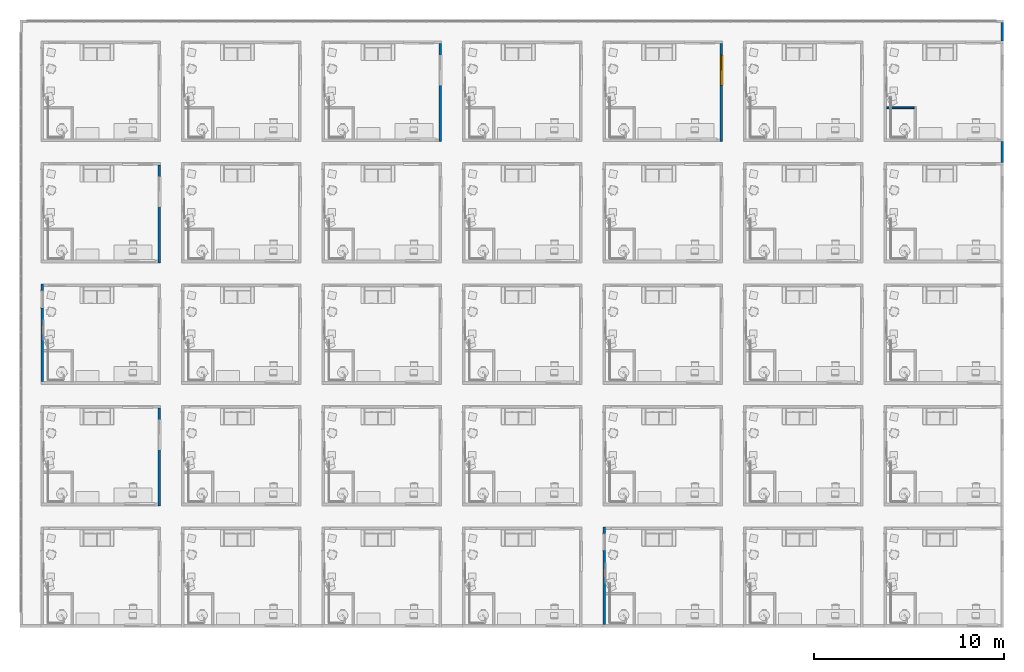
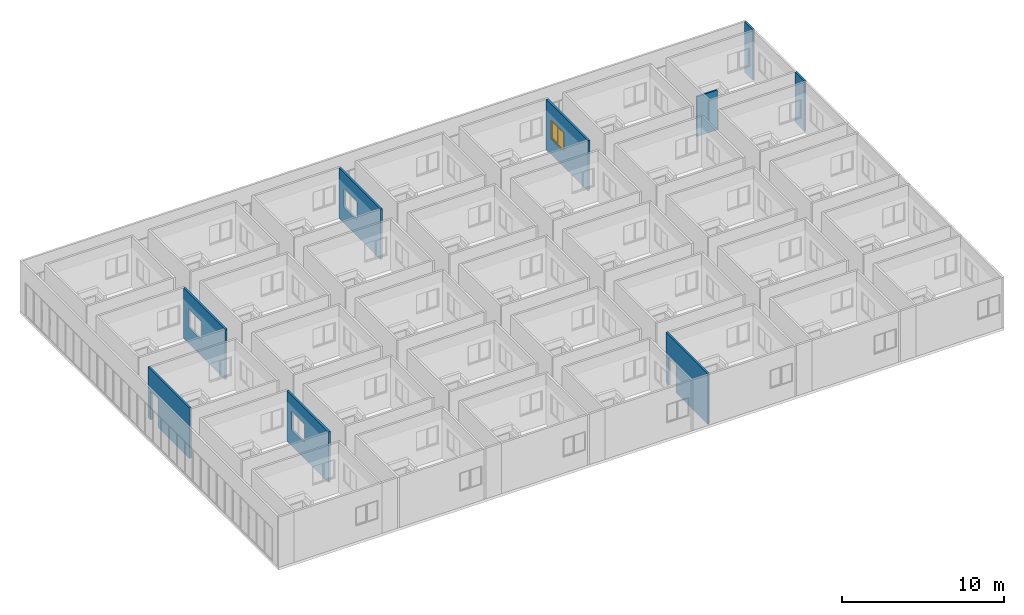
# One storey, part 10 of 72: 9 walls, 1 window, 6 openings.
"""IFC4 building model written with IfcOpenShell, lengths in centimetres."""

from ifc_helpers import new_model, entity, si_unit, converted_unit, derived_unit, direction, frame, origin, place, context, subcontext, project, spatial, indexed_curve, outline, extrude, polygons, source, transform, mapped, material, constituent, constituent_set, type_object, type_shapes, element, fill, save


model = new_model("IFC4")

# Units and contexts
model_context = context("Model", 3, precision=0.001, world=origin(), true_north=direction((6.123233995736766e-17, 1.0)))
body_context = subcontext(model_context, "Body", "Model", "MODEL_VIEW")
ifc_project = project(units=[si_unit("LENGTHUNIT", "METRE", prefix="CENTI"), si_unit("AREAUNIT", "SQUARE_METRE"), si_unit("VOLUMEUNIT", "CUBIC_METRE"), derived_unit("THERMALTRANSMITTANCEUNIT", [(si_unit("MASSUNIT", "GRAM", prefix="KILO"), 1), (si_unit("THERMODYNAMICTEMPERATUREUNIT", "KELVIN"), -1), (si_unit("TIMEUNIT", "SECOND"), -3)]), converted_unit("PLANEANGLEUNIT", "DEGREE", entity("IfcPlaneAngleMeasure", 0.017453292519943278), si_unit("PLANEANGLEUNIT", "RADIAN"), dimensions=[0, 0, 0, 0, 0, 0, 0]), derived_unit("MASSDENSITYUNIT", [(si_unit("MASSUNIT", "GRAM", prefix="KILO"), 1), (si_unit("LENGTHUNIT", "METRE"), -3)]), derived_unit("VAPORPERMEABILITYUNIT", [(si_unit("LENGTHUNIT", "METRE"), -1), (si_unit("TIMEUNIT", "SECOND"), 1)]), derived_unit("USERDEFINED", [(si_unit("MASSUNIT", "GRAM", prefix="KILO"), 1), (si_unit("TIMEUNIT", "SECOND"), -3), (si_unit("LENGTHUNIT", "METRE"), 3), (si_unit("ELECTRICCURRENTUNIT", "AMPERE"), -2)]), derived_unit("SPECIFICHEATCAPACITYUNIT", [(si_unit("THERMODYNAMICTEMPERATUREUNIT", "KELVIN"), -1), (si_unit("LENGTHUNIT", "METRE"), 2), (si_unit("TIMEUNIT", "SECOND"), -2)]), derived_unit("THERMALCONDUCTANCEUNIT", [(si_unit("MASSUNIT", "GRAM", prefix="KILO"), 1), (si_unit("THERMODYNAMICTEMPERATUREUNIT", "KELVIN"), -1), (si_unit("TIMEUNIT", "SECOND"), -3), (si_unit("LENGTHUNIT", "METRE"), 1)]), si_unit("PRESSUREUNIT", "PASCAL"), derived_unit("MODULUSOFELASTICITYUNIT", [(si_unit("MASSUNIT", "GRAM", prefix="KILO"), 1), (si_unit("LENGTHUNIT", "METRE"), -1), (si_unit("TIMEUNIT", "SECOND"), -2)]), derived_unit("THERMALEXPANSIONCOEFFICIENTUNIT", [(si_unit("THERMODYNAMICTEMPERATUREUNIT", "KELVIN"), -1)])], contexts=[model_context])

# Site, building, storey
site_placement = place(None, origin())
site = spatial("IfcSite", under=ifc_project, at=site_placement, Name="Default", CompositionType="ELEMENT")
building_placement = place(site_placement, origin())
building = spatial("IfcBuilding", under=site, at=building_placement, Name="IDS Escape Game Building", CompositionType="ELEMENT")
storey_placement = place(building_placement, frame((0.0, 0.0, 800.0)))
storey = spatial("IfcBuildingStorey", under=building, at=storey_placement, Name="02_Second Floor", CompositionType="ELEMENT", Elevation=800.0)

# Wall, opening
ifc_material_1 = material(Name="ARC_FME.g2_Fg2 Masonry_00_gen_BERSnl", Category="g - klei")
wall_type_1 = type_object("IfcWallType", Name="Basic Wall:ARC_22.10_WA_LB_SB14_gen_BERSnl", PredefinedType="STANDARD")
wall_1_placement = place(storey_placement, frame((2952.0, 527.0, 0.0), z_axis=(0.0, 0.0, 1.0), x_axis=(0.0, -1.0, 0.0)))
wall_1 = element("IfcWall", 1, at=wall_1_placement, inside=storey, type_object=wall_type_1, material=ifc_material_1, Name="Basic Wall:ARC_22.10_WA_LB_SB14_gen_BERSnl", ObjectType="Basic Wall:ARC_22.10_WA_LB_SB14_gen_BERSnl", PredefinedType="NOTDEFINED", context=body_context, shape_type="Tessellation", body=[
    polygons([(513.9999999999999, -6.999999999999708, 379.9999999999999), (0.0, -6.999999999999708, 379.9999999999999), (0.0, -6.999999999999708, -1.0828671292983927e-13), (35.999999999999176, -6.999999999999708, -1.0828671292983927e-13), (35.999999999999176, -6.999999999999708, 215.00000000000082), (125.99999999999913, -6.999999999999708, 215.00000000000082), (125.99999999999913, -6.999999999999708, -1.0828671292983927e-13), (513.9999999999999, -6.999999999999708, -1.0828671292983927e-13), (0.0, 7.000000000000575, 379.9999999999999), (13.999999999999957, 7.000000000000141, 379.9999999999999), (513.9999999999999, 7.000000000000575, 379.9999999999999), (513.9999999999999, 7.000000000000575, -1.0828671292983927e-13), (355.999999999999, 7.000000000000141, -1.0828671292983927e-13), (345.999999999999, 7.000000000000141, -1.0828671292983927e-13), (125.99999999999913, 7.000000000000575, -1.0828671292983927e-13), (125.99999999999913, 7.000000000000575, 215.00000000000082), (35.999999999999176, 7.000000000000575, 215.00000000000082), (35.999999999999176, 7.000000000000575, -1.0828671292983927e-13), (13.999999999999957, 7.000000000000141, -1.0828671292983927e-13), (0.0, 7.000000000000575, -1.0828671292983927e-13)], [[[1, 2, 3, 4, 5, 6, 7, 8]], [[9, 10, 11, 12, 13, 14, 15, 16, 17, 18, 19, 20]], [[3, 20, 19, 18, 4]], [[2, 1, 11, 10, 9]], [[17, 5, 4, 18]], [[6, 16, 15, 7]], [[5, 17, 16, 6]], [[3, 2, 9, 20]], [[1, 8, 12, 11]], [[12, 8, 7, 15, 14, 13]]], closed=True),
])
opening_1_placement = place(wall_1_placement, frame((527.0, -2952.0, 0.0), z_axis=(0.0, 0.0, 1.0), x_axis=(0.0, 1.0, 0.0)))
element("IfcOpeningElement", 2, at=opening_1_placement, cuts=wall_1, Name="Basic Wall:ARC_22.10_WA_LB_SB14_gen_BERSnl", PredefinedType="OPENING", context=body_context, shape_type="SweptSolid", body=[
    extrude(outline(indexed_curve([(-137.49999999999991, -45.0), (137.49999999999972, -45.0), (137.49999999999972, 44.99999999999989), (-137.49999999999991, 44.99999999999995), (-137.49999999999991, -45.0)], self_intersect=False)), frame((2862.0, 446.0, 77.50000000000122), z_axis=(1.0, 0.0, 0.0), x_axis=(0.0, 0.0, 1.0)), (0.0, 0.0, 1.0), 166.00000000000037),
])

wall_2_placement = place(storey_placement, frame((614.0, 637.0, 0.0), z_axis=(0.0, 0.0, 1.0), x_axis=(0.0, 1.0, 0.0)))
wall_2 = element("IfcWall", 3, at=wall_2_placement, inside=storey, type_object=wall_type_1, material=ifc_material_1, Name="Basic Wall:ARC_22.10_WA_LB_SB14_gen_BERSnl", ObjectType="Basic Wall:ARC_22.10_WA_LB_SB14_gen_BERSnl", PredefinedType="NOTDEFINED", context=body_context, shape_type="Tessellation", body=[
    polygons([(0.0, -6.9999999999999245, -1.0828671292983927e-13), (514.0, -6.9999999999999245, -1.0828671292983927e-13), (514.0, -6.9999999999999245, 379.9999999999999), (0.0, -6.9999999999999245, 379.9999999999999), (454.0, -6.999999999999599, 260.00000000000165), (454.00000000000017, -6.999999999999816, 119.9999999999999), (294.0000000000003, -6.9999999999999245, 119.9999999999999), (294.0000000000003, -6.999999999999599, 260.00000000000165), (454.00000000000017, 7.000000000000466, 119.9999999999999), (454.00000000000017, 7.000000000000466, 260.0000000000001), (294.0000000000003, 7.000000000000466, 260.0000000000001), (294.0000000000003, 7.000000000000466, 119.9999999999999), (0.0, 7.000000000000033, -1.0828671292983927e-13), (0.0, 7.000000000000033, 379.9999999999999), (13.999999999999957, 7.000000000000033, 379.9999999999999), (514.0, 7.000000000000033, 379.9999999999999), (514.0, 7.000000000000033, -1.0828671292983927e-13), (13.999999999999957, 7.000000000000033, -1.0828671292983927e-13)], [[[1, 2, 3, 4], [5, 6, 7, 8]], [[13, 14, 15, 16, 17, 18], [9, 10, 11, 12]], [[2, 1, 13, 18, 17]], [[4, 3, 16, 15, 14]], [[10, 9, 6, 5]], [[7, 12, 11, 8]], [[10, 5, 8, 11]], [[12, 7, 6, 9]], [[1, 4, 14, 13]], [[3, 2, 17, 16]]], closed=True),
])
opening_2_placement = place(wall_2_placement, frame((-637.0, 614.0, 120.0), z_axis=(0.0, 0.0, 1.0), x_axis=(0.0, -1.0, 0.0)))
element("IfcOpeningElement", 4, at=opening_2_placement, cuts=wall_2, Name="Basic Wall:ARC_22.10_WA_LB_SB14_gen_BERSnl", PredefinedType="OPENING", context=body_context, shape_type="Tessellation", body=[
    polygons([(607.0000000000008, 1091.0, 0.0), (607.0000000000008, 1091.0, -0.9999999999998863), (602.0000000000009, 1091.0, -0.9999999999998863), (602.0000000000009, 1091.0, 0.0), (607.0000000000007, 931.0, 0.0), (602.0000000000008, 931.0, 0.0), (602.0000000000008, 931.0, -0.9999999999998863), (607.0000000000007, 931.0, -0.9999999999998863), (607.0000000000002, 1086.0, 1.1368683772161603e-13), (607.0000000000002, 936.0, 1.1368683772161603e-13), (602.0000000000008, 936.0, 0.0), (601.999999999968, 936.0, 134.99999999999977), (601.9999999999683, 1086.0, 134.99999999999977), (602.0000000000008, 1086.0, 0.0), (626.0368251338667, 1090.9999999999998, 0.0), (606.9999999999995, 1091.0, 1.1368683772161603e-13), (606.9999999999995, 1091.0, 140.0000000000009), (626.0368251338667, 1091.0, 140.00000000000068), (626.0368251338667, 931.0, 140.00000000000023), (606.9999999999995, 931.0, 140.00000000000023), (606.9999999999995, 931.0, 0.0), (626.0368251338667, 931.0, 1.1368683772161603e-13), (606.9999999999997, 1086.0, 134.99999999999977), (606.9999999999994, 936.0, 134.99999999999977)], [[[1, 2, 3, 4]], [[5, 6, 7, 8]], [[1, 9, 10, 5, 8, 2]], [[2, 8, 7, 3]], [[3, 7, 6, 11, 12, 13, 14, 4]], [[4, 14, 9, 1]], [[15, 16, 17, 18]], [[19, 20, 21, 22]], [[18, 17, 20, 19]], [[18, 19, 22, 15]], [[17, 16, 9, 23, 24, 10, 21, 20]], [[22, 21, 10, 9, 16, 15]], [[11, 10, 24, 12]], [[13, 23, 9, 14]], [[12, 24, 23, 13]], [[5, 10, 11, 6]]], closed=True),
])

wall_3_placement = place(storey_placement, frame((0.0, 1803.0, 0.0), z_axis=(0.0, 0.0, 1.0), x_axis=(0.0, -1.0, 0.0)))
wall_3 = element("IfcWall", 5, at=wall_3_placement, inside=storey, type_object=wall_type_1, material=ifc_material_1, Name="Basic Wall:ARC_22.10_WA_LB_SB14_gen_BERSnl", ObjectType="Basic Wall:ARC_22.10_WA_LB_SB14_gen_BERSnl", PredefinedType="NOTDEFINED", context=body_context, shape_type="Tessellation", body=[
    polygons([(514.0000000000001, -7.0, 379.9999999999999), (0.0, -7.0, 379.9999999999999), (0.0, -7.0, -1.0828671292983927e-13), (35.999999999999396, -7.0, -1.0828671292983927e-13), (35.999999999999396, -7.000000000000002, 215.00000000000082), (125.99999999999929, -7.000000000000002, 215.00000000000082), (125.99999999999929, -7.0, -1.0828671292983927e-13), (514.0000000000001, -7.0, -1.0828671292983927e-13), (0.0, 7.0, 379.9999999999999), (14.000000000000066, 7.0, 379.9999999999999), (514.0000000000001, 7.0, 379.9999999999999), (514.0000000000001, 7.0, -1.0828671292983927e-13), (355.999999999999, 7.0, -1.0828671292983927e-13), (345.99999999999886, 7.0, -1.0828671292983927e-13), (125.99999999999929, 7.0, -1.0828671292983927e-13), (125.99999999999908, 6.9999999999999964, 215.00000000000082), (35.99999999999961, 7.000000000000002, 215.00000000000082), (35.999999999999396, 7.0, -1.0828671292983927e-13), (14.000000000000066, 7.0, -1.0828671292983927e-13), (0.0, 7.0, -1.0828671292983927e-13)], [[[1, 2, 3, 4, 5, 6, 7, 8]], [[9, 10, 11, 12, 13, 14, 15, 16, 17, 18, 19, 20]], [[3, 20, 19, 18, 4]], [[2, 1, 11, 10, 9]], [[17, 5, 4, 18]], [[6, 16, 15, 7]], [[5, 17, 16, 6]], [[3, 2, 9, 20]], [[1, 8, 12, 11]], [[12, 8, 7, 15, 14, 13]]], closed=True),
])
opening_3_placement = place(wall_3_placement, frame((1803.0, 0.0, 0.0), z_axis=(0.0, 0.0, 1.0), x_axis=(0.0, 1.0, 0.0)))
element("IfcOpeningElement", 6, at=opening_3_placement, cuts=wall_3, Name="Basic Wall:ARC_22.10_WA_LB_SB14_gen_BERSnl", PredefinedType="OPENING", context=body_context, shape_type="SweptSolid", body=[
    extrude(outline(indexed_curve([(-137.49999999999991, -44.99999999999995), (137.49999999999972, -44.99999999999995), (137.49999999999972, 44.99999999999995), (-137.49999999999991, 44.99999999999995), (-137.49999999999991, -44.99999999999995)], self_intersect=False)), frame((-90.0, 1722.0, 77.50000000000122), z_axis=(1.0, 0.0, 0.0), x_axis=(0.0, 0.0, 1.0)), (0.0, 0.0, 1.0), 166.0),
])

wall_4_placement = place(storey_placement, frame((614.0, 1913.0, 0.0), z_axis=(0.0, 0.0, 1.0), x_axis=(0.0, 1.0, 0.0)))
wall_4 = element("IfcWall", 7, at=wall_4_placement, inside=storey, type_object=wall_type_1, material=ifc_material_1, Name="Basic Wall:ARC_22.10_WA_LB_SB14_gen_BERSnl", ObjectType="Basic Wall:ARC_22.10_WA_LB_SB14_gen_BERSnl", PredefinedType="NOTDEFINED", context=body_context, shape_type="Tessellation", body=[
    polygons([(0.0, -6.9999999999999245, -1.0828671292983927e-13), (513.9999999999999, -6.9999999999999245, -1.0828671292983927e-13), (513.9999999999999, -6.9999999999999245, 379.9999999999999), (0.0, -6.9999999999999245, 379.9999999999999), (454.00000000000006, -6.999999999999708, 260.00000000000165), (454.0000000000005, -6.9999999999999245, 119.9999999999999), (294.0000000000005, -7.000000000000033, 119.9999999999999), (294.0000000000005, -6.999999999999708, 260.00000000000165), (454.0000000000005, 7.000000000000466, 119.9999999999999), (454.0000000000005, 7.000000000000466, 260.0000000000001), (294.0000000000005, 7.000000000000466, 260.0000000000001), (294.0000000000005, 7.000000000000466, 119.9999999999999), (0.0, 7.000000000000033, -1.0828671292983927e-13), (0.0, 7.000000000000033, 379.9999999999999), (14.000000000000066, 7.000000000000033, 379.9999999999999), (513.9999999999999, 7.000000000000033, 379.9999999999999), (513.9999999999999, 7.000000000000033, -1.0828671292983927e-13), (14.000000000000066, 7.000000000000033, -1.0828671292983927e-13)], [[[1, 2, 3, 4], [5, 6, 7, 8]], [[13, 14, 15, 16, 17, 18], [9, 10, 11, 12]], [[2, 1, 13, 18, 17]], [[4, 3, 16, 15, 14]], [[10, 9, 6, 5]], [[7, 12, 11, 8]], [[10, 5, 8, 11]], [[12, 7, 6, 9]], [[1, 4, 14, 13]], [[3, 2, 17, 16]]], closed=True),
])
opening_4_placement = place(wall_4_placement, frame((-1913.0, 614.0, 120.0), z_axis=(0.0, 0.0, 1.0), x_axis=(0.0, -1.0, 0.0)))
element("IfcOpeningElement", 8, at=opening_4_placement, cuts=wall_4, Name="Basic Wall:ARC_22.10_WA_LB_SB14_gen_BERSnl", PredefinedType="OPENING", context=body_context, shape_type="Tessellation", body=[
    polygons([(607.0, 2367.0000000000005, 0.0), (607.0, 2367.0000000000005, -0.9999999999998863), (602.0, 2367.0000000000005, -0.9999999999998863), (602.0, 2367.0000000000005, 0.0), (606.9999999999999, 2207.0000000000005, 0.0), (601.9999999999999, 2207.0000000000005, 0.0), (601.9999999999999, 2207.0000000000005, -0.9999999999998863), (606.9999999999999, 2207.0000000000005, -0.9999999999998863), (606.9999999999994, 2362.0000000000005, 1.1368683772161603e-13), (606.9999999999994, 2212.0000000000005, 1.1368683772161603e-13), (601.9999999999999, 2212.0000000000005, 0.0), (601.9999999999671, 2212.0, 134.99999999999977), (601.9999999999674, 2362.0000000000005, 134.99999999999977), (601.9999999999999, 2362.0000000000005, 0.0), (626.0368251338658, 2367.0000000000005, 0.0), (606.9999999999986, 2367.0000000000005, 1.1368683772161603e-13), (606.9999999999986, 2367.0000000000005, 140.0000000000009), (626.0368251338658, 2367.0000000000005, 140.00000000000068), (626.0368251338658, 2207.0000000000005, 140.00000000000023), (606.9999999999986, 2207.0000000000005, 140.00000000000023), (606.9999999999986, 2207.0000000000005, 0.0), (626.0368251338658, 2207.0000000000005, 1.1368683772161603e-13), (606.9999999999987, 2362.0000000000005, 134.99999999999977), (606.9999999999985, 2212.0, 134.99999999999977)], [[[1, 2, 3, 4]], [[5, 6, 7, 8]], [[1, 9, 10, 5, 8, 2]], [[2, 8, 7, 3]], [[3, 7, 6, 11, 12, 13, 14, 4]], [[4, 14, 9, 1]], [[15, 16, 17, 18]], [[19, 20, 21, 22]], [[18, 17, 20, 19]], [[18, 19, 22, 15]], [[17, 16, 9, 23, 24, 10, 21, 20]], [[22, 21, 10, 9, 16, 15]], [[11, 10, 24, 12]], [[13, 23, 9, 14]], [[12, 24, 23, 13]], [[5, 10, 11, 6]]], closed=True),
])

wall_5_placement = place(storey_placement, frame((2090.0, 2551.0, 0.0), z_axis=(0.0, 0.0, 1.0), x_axis=(0.0, 1.0, 0.0)))
wall_5 = element("IfcWall", 9, at=wall_5_placement, inside=storey, type_object=wall_type_1, material=ifc_material_1, Name="Basic Wall:ARC_22.10_WA_LB_SB14_gen_BERSnl", ObjectType="Basic Wall:ARC_22.10_WA_LB_SB14_gen_BERSnl", PredefinedType="NOTDEFINED", context=body_context, shape_type="Tessellation", body=[
    polygons([(0.0, -6.999999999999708, -1.0828671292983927e-13), (513.9999999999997, -6.999999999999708, -1.0828671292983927e-13), (513.9999999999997, -6.999999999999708, 379.9999999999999), (0.0, -6.999999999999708, 379.9999999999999), (454.00000000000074, -6.999999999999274, 260.00000000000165), (454.00000000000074, -6.999999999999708, 119.9999999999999), (294.00000000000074, -6.999999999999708, 119.9999999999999), (294.00000000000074, -6.999999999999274, 260.00000000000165), (454.00000000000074, 7.000000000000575, 119.9999999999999), (454.00000000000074, 7.000000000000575, 260.0000000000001), (294.00000000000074, 7.000000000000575, 260.0000000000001), (294.00000000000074, 7.000000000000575, 119.9999999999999), (0.0, 7.000000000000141, -1.0828671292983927e-13), (0.0, 7.000000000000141, 379.9999999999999), (13.999999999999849, 7.000000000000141, 379.9999999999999), (513.9999999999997, 7.000000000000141, 379.9999999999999), (513.9999999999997, 7.000000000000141, -1.0828671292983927e-13), (13.999999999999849, 7.000000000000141, -1.0828671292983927e-13)], [[[1, 2, 3, 4], [5, 6, 7, 8]], [[13, 14, 15, 16, 17, 18], [9, 10, 11, 12]], [[2, 1, 13, 18, 17]], [[4, 3, 16, 15, 14]], [[10, 9, 6, 5]], [[7, 12, 11, 8]], [[10, 5, 8, 11]], [[12, 7, 6, 9]], [[1, 4, 14, 13]], [[3, 2, 17, 16]]], closed=True),
])
opening_5_placement = place(wall_5_placement, frame((-2551.0, 2090.0, 120.0), z_axis=(0.0, 0.0, 1.0), x_axis=(0.0, -1.0, 0.0)))
element("IfcOpeningElement", 10, at=opening_5_placement, cuts=wall_5, Name="Basic Wall:ARC_22.10_WA_LB_SB14_gen_BERSnl", PredefinedType="OPENING", context=body_context, shape_type="Tessellation", body=[
    polygons([(2082.9999999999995, 3005.000000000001, 0.0), (2082.9999999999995, 3005.000000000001, -0.9999999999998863), (2077.999999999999, 3005.000000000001, -0.9999999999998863), (2077.999999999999, 3005.000000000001, 0.0), (2082.9999999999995, 2845.000000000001, 0.0), (2077.999999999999, 2845.000000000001, 0.0), (2077.999999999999, 2845.000000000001, -0.9999999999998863), (2082.9999999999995, 2845.000000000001, -0.9999999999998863), (2082.999999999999, 3000.000000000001, 1.1368683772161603e-13), (2082.999999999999, 2850.000000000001, 1.1368683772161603e-13), (2077.9999999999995, 2850.0000000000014, 0.0), (2077.9999999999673, 2850.0000000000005, 134.99999999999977), (2077.9999999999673, 3000.0000000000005, 134.99999999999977), (2077.9999999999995, 3000.000000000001, 0.0), (2102.0368251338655, 3005.000000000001, 0.0), (2082.999999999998, 3005.000000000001, 1.1368683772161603e-13), (2082.9999999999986, 3005.000000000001, 140.0000000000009), (2102.036825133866, 3005.000000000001, 140.00000000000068), (2102.0368251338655, 2845.000000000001, 140.00000000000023), (2082.999999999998, 2845.000000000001, 140.00000000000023), (2082.9999999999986, 2845.000000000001, 0.0), (2102.0368251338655, 2845.000000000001, 1.1368683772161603e-13), (2082.9999999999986, 3000.0000000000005, 134.99999999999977), (2082.999999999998, 2850.0000000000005, 134.99999999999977)], [[[1, 2, 3, 4]], [[5, 6, 7, 8]], [[1, 9, 10, 5, 8, 2]], [[2, 8, 7, 3]], [[3, 7, 6, 11, 12, 13, 14, 4]], [[4, 14, 9, 1]], [[15, 16, 17, 18]], [[19, 20, 21, 22]], [[18, 17, 20, 19]], [[18, 19, 22, 15]], [[17, 16, 9, 23, 24, 10, 21, 20]], [[22, 21, 10, 9, 16, 15]], [[11, 10, 24, 12]], [[13, 23, 9, 14]], [[12, 24, 23, 13]], [[5, 10, 11, 6]]], closed=True),
])

# Wall, opening, window
wall_6_placement = place(storey_placement, frame((3566.0, 2551.0, 0.0), z_axis=(0.0, 0.0, 1.0), x_axis=(0.0, 1.0, 0.0)))
wall_6 = element("IfcWall", 11, at=wall_6_placement, inside=storey, type_object=wall_type_1, material=ifc_material_1, Name="Basic Wall:ARC_22.10_WA_LB_SB14_gen_BERSnl", ObjectType="Basic Wall:ARC_22.10_WA_LB_SB14_gen_BERSnl", PredefinedType="NOTDEFINED", context=body_context, shape_type="Tessellation", body=[
    polygons([(0.0, -6.999999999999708, -1.0828671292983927e-13), (513.9999999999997, -6.999999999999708, -1.0828671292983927e-13), (513.9999999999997, -6.999999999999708, 379.9999999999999), (0.0, -6.999999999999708, 379.9999999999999), (454.00000000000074, -6.999999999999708, 260.00000000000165), (454.00000000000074, -6.999999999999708, 119.9999999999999), (294.00000000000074, -6.999999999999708, 119.9999999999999), (294.00000000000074, -6.999999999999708, 260.00000000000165), (454.00000000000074, 7.000000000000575, 119.9999999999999), (454.00000000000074, 7.000000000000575, 260.0000000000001), (294.00000000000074, 7.000000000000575, 260.0000000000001), (294.00000000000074, 7.000000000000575, 119.9999999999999), (0.0, 7.000000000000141, -1.0828671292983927e-13), (0.0, 7.000000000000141, 379.9999999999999), (13.999999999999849, 7.000000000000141, 379.9999999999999), (513.9999999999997, 7.000000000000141, 379.9999999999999), (513.9999999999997, 7.000000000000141, -1.0828671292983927e-13), (13.999999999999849, 7.000000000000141, -1.0828671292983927e-13)], [[[1, 2, 3, 4], [5, 6, 7, 8]], [[13, 14, 15, 16, 17, 18], [9, 10, 11, 12]], [[2, 1, 13, 18, 17]], [[4, 3, 16, 15, 14]], [[10, 9, 6, 5]], [[7, 12, 11, 8]], [[10, 5, 8, 11]], [[12, 7, 6, 9]], [[1, 4, 14, 13]], [[3, 2, 17, 16]]], closed=True),
])
opening_6_placement = place(wall_6_placement, frame((-2551.0, 3566.0, 120.0), z_axis=(0.0, 0.0, 1.0), x_axis=(0.0, -1.0, 0.0)))
opening_6 = element("IfcOpeningElement", 12, at=opening_6_placement, cuts=wall_6, Name="Basic Wall:ARC_22.10_WA_LB_SB14_gen_BERSnl", PredefinedType="OPENING", context=body_context, shape_type="Tessellation", body=[
    polygons([(3558.9999999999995, 3005.000000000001, 0.0), (3558.9999999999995, 3005.000000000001, -0.9999999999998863), (3553.9999999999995, 3005.000000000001, -0.9999999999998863), (3553.9999999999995, 3005.000000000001, 0.0), (3558.9999999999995, 2845.000000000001, 0.0), (3553.9999999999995, 2845.000000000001, 0.0), (3553.9999999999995, 2845.000000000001, -0.9999999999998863), (3558.9999999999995, 2845.000000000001, -0.9999999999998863), (3558.9999999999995, 3000.000000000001, 1.1368683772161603e-13), (3558.999999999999, 2850.000000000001, 1.1368683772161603e-13), (3554.0, 2850.0000000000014, 0.0), (3553.999999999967, 2850.0000000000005, 134.99999999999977), (3553.999999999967, 3000.0000000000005, 134.99999999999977), (3554.0, 3000.000000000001, 0.0), (3578.0368251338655, 3005.000000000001, 0.0), (3558.999999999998, 3005.000000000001, 1.1368683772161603e-13), (3558.9999999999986, 3005.000000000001, 140.0000000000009), (3578.0368251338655, 3005.000000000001, 140.00000000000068), (3578.0368251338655, 2845.000000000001, 140.00000000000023), (3558.999999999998, 2845.000000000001, 140.00000000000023), (3558.999999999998, 2845.000000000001, 0.0), (3578.0368251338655, 2845.000000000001, 1.1368683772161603e-13), (3558.9999999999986, 3000.0000000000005, 134.99999999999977), (3558.999999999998, 2850.0000000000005, 134.99999999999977)], [[[1, 2, 3, 4]], [[5, 6, 7, 8]], [[1, 9, 10, 5, 8, 2]], [[2, 8, 7, 3]], [[3, 7, 6, 11, 12, 13, 14, 4]], [[4, 14, 9, 1]], [[15, 16, 17, 18]], [[19, 20, 21, 22]], [[18, 17, 20, 19]], [[18, 19, 22, 15]], [[17, 16, 9, 23, 24, 10, 21, 20]], [[22, 21, 10, 9, 16, 15]], [[11, 10, 24, 12]], [[13, 23, 9, 14]], [[12, 24, 23, 13]], [[5, 10, 11, 6]]], closed=True),
])
ifc_material_2 = material(Name="<Unnamed>")
ifc_constituent_1 = constituent(ifc_material_2, Name="<Unnamed>", fraction=0.0)
ifc_material_3 = material(Name="ARC_FME.o1_glass_00_gen_BERSnl", Category="o - glas")
ifc_constituent_2 = constituent(ifc_material_3, Name="ARC_FME.o1_glass_00_gen_BERSnl", Category="o - glas", fraction=1.0)
ifc_constituent_set_1 = constituent_set(constituents=[ifc_constituent_1, ifc_constituent_2])
ifc_constituent_3 = constituent(ifc_material_2, Name="BE Tablet", fraction=0.0)
ifc_constituent_4 = constituent(ifc_material_2, Name="Frame/Mullion", fraction=0.0)
ifc_constituent_5 = constituent(ifc_material_3, Name="Glass", Category="o - glas", fraction=1.0)
ifc_constituent_set_2 = constituent_set(constituents=[ifc_constituent_3, ifc_constituent_4, ifc_constituent_5])
window_type = type_object("IfcWindowType", Name="ARC_31_WI_WB_Dubbel Raam-Recht-Vast en Draaiend_gen_BERSnl:Links-Draaiend / Rechts-Draaiend", PartitioningType="NOTDEFINED", PredefinedType="WINDOW", material=ifc_constituent_set_2)
shared_shape = source(origin(), body_context, "Body", "Tessellation", [
    extrude(outline(indexed_curve([(-80.00000000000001, -4.999999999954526), (80.00000000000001, -4.999999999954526), (80.00000000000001, 4.999999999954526), (-80.00000000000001, 4.999999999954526), (-80.00000000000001, -4.999999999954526)], self_intersect=False)), frame((80.0, 7.036825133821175, 1.0), z_axis=(0.0, 0.0, 1.0), x_axis=(-1.0, 0.0, 0.0)), (0.0, 0.0, 1.0), 2.000000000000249),
    extrude(outline(indexed_curve([(-2.9999999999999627, -3.000000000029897), (-7.656209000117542e-14, -3.000000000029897), (-7.064016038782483e-14, 5.979964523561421e-11), (3.0000000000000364, 5.978991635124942e-11), (3.0000000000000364, 2.9999999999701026), (-2.9999999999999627, 2.9999999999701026), (-2.9999999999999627, -3.000000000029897)], self_intersect=False)), frame((80.0, 15.03682513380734, 7.0)), (0.0, 0.0, 1.0), 128.00000000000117),
    extrude(outline(indexed_curve([(-35.499999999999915, -1.2000000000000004), (35.499999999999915, -1.2000000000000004), (35.49999999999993, 1.2), (-35.499999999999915, 1.2), (-35.499999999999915, -1.2000000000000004)], self_intersect=False)), frame((41.50000000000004, 15.036825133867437, 7.0), z_axis=(0.0, 0.0, 1.0), x_axis=(-1.0, 0.0, 0.0)), (0.0, 0.0, 1.0), 128.000000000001),
    extrude(outline(indexed_curve([(-67.00000000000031, -38.500000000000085), (67.00000000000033, -38.5000000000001), (67.00000000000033, 38.50000000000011), (-67.00000000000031, 38.50000000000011), (-67.00000000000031, -38.500000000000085)], self_intersect=False), holes=[indexed_curve([(61.00000000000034, -32.50000000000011), (-61.00000000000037, -32.500000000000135), (-61.00000000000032, 32.50000000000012), (61.00000000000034, 32.50000000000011), (61.00000000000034, -32.50000000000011)], self_intersect=False)]), frame((118.5, 9.03682513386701, 71.0), z_axis=(0.0, 1.0, 0.0), x_axis=(0.0, 0.0, -1.0)), (0.0, 0.0, 1.0), 6.0),
    extrude(outline(indexed_curve([(-32.500000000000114, -1.2000000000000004), (32.500000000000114, -1.2000000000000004), (32.500000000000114, 1.2000000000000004), (-32.500000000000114, 1.2000000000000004), (-32.500000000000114, -1.2000000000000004)], self_intersect=False)), frame((118.5, 12.036825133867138, 10.0), z_axis=(0.0, 0.0, 1.0), x_axis=(-1.0, 0.0, 0.0)), (0.0, 0.0, 1.0), 122.00000000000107),
    polygons([(160.00000000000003, 18.03682513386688, 141.00000000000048), (160.00000000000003, 18.03682513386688, 1.0000000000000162), (4.0607517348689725e-14, 18.036825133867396, 1.0000000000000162), (4.0607517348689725e-14, 18.036825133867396, 141.00000000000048), (6.000000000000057, 18.03682513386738, 135.00000000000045), (6.000000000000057, 18.03682513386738, 7.000000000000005), (76.99999999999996, 18.03682513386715, 7.000000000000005), (154.00000000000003, 18.0368251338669, 7.000000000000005), (154.00000000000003, 18.0368251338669, 135.00000000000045), (76.99999999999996, 18.03682513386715, 135.00000000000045), (160.0, 12.03682513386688, 141.00000000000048), (160.0, 12.03682513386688, 1.0000000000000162), (2.7071678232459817e-14, 12.036825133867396, 1.0000000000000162), (2.7071678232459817e-14, 12.036825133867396, 141.00000000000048), (6.000000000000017, 12.036825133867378, 135.00000000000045), (6.000000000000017, 12.036825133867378, 7.000000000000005), (76.99999999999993, 12.036825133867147, 7.000000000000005), (79.99999999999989, 12.036825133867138, 7.000000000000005), (79.9999999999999, 15.036825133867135, 7.000000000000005), (154.00000000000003, 15.0368251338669, 7.000000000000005), (154.00000000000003, 15.036825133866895, 135.00000000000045), (76.99999999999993, 12.036825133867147, 135.00000000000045), (79.99999999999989, 12.036825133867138, 135.00000000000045), (79.99999999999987, 12.036825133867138, 138.00000000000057), (157.00000000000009, 12.036825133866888, 138.00000000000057), (157.00000000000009, 12.036825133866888, 3.9999999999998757), (79.99999999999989, 12.036825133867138, 3.9999999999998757), (157.0000000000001, 15.036825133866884, 3.9999999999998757), (157.0000000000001, 15.036825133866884, 138.00000000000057), (79.99999999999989, 15.036825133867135, 3.9999999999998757), (79.99999999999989, 15.036825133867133, 138.00000000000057), (79.99999999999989, 15.036825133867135, 135.00000000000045)], [[[1, 2, 3, 4], [5, 6, 7, 8, 9, 10]], [[2, 1, 11, 12]], [[3, 2, 12, 13]], [[4, 3, 13, 14]], [[6, 5, 15, 16]], [[6, 16, 17, 18, 19, 20, 8, 7]], [[9, 8, 20, 21]], [[11, 14, 13, 12], [16, 15, 22, 23, 24, 25, 26, 27, 18, 17]], [[28, 26, 25, 29]], [[30, 27, 26, 28]], [[31, 24, 23, 32]], [[30, 28, 29, 31, 32, 21, 20, 19]], [[1, 4, 14, 11]], [[15, 5, 10, 9, 21, 32, 23, 22]], [[24, 31, 29, 25]], [[27, 30, 19, 18]]], closed=True),
])
type_shapes(window_type, [shared_shape])
window_placement = place(opening_6_placement, frame((3578.0368251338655, 2845.0, -1.0), z_axis=(0.0, 0.0, 1.0), x_axis=(0.0, 1.0, 0.0)))
window = element("IfcWindow", 13, at=window_placement, inside=storey, type_object=window_type, material=ifc_constituent_set_1, Name="ARC_31_WI_WB_Dubbel Raam-Recht-Vast en Draaiend_gen_BERSnl:Links-Draaiend / Rechts-Draaiend", ObjectType="ARC_31_WI_WB_Dubbel Raam-Recht-Vast en Draaiend_gen_BERSnl:Links-Draaiend / Rechts-Draaiend", OverallHeight=140.00000000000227, OverallWidth=160.0000000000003, PartitioningType="NOTDEFINED", PredefinedType="WINDOW", context=body_context, shape_type="MappedRepresentation", body=[
    mapped(shared_shape, transform((0.0, 0.0, 0.0), scale=1.0)),
])
fill(opening_6, window)

# Walls
wall_7_placement = place(storey_placement, frame((5042.0, 3175.0, 0.0), z_axis=(0.0, 0.0, 1.0), x_axis=(0.0, -1.0, 0.0)))
element("IfcWall", 14, at=wall_7_placement, inside=storey, type_object=wall_type_1, material=ifc_material_1, Name="Basic Wall:ARC_22.10_WA_LB_SB14_gen_BERSnl", ObjectType="Basic Wall:ARC_22.10_WA_LB_SB14_gen_BERSnl", PredefinedType="NOTDEFINED", context=body_context, shape_type="SweptSolid", body=[
    extrude(outline(indexed_curve([(95.9999999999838, 7.000000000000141), (0.0, 7.000000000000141), (0.0, -7.000000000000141), (95.9999999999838, -7.000000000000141), (95.9999999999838, 7.000000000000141)], self_intersect=False)), origin(), (0.0, 0.0, 1.0), 380.0000000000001),
])
wall_8_placement = place(storey_placement, frame((5042.0, 2551.0, 0.0), z_axis=(0.0, 0.0, 1.0), x_axis=(0.0, -1.0, 0.0)))
element("IfcWall", 15, at=wall_8_placement, inside=storey, type_object=wall_type_1, material=ifc_material_1, Name="Basic Wall:ARC_22.10_WA_LB_SB14_gen_BERSnl", ObjectType="Basic Wall:ARC_22.10_WA_LB_SB14_gen_BERSnl", PredefinedType="NOTDEFINED", context=body_context, shape_type="SweptSolid", body=[
    extrude(outline(indexed_curve([(110.00000000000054, 7.000000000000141), (0.0, 7.000000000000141), (0.0, -7.000000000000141), (110.00000000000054, -7.000000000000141), (110.00000000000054, 7.000000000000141)], self_intersect=False)), origin(), (0.0, 0.0, 1.0), 380.0000000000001),
])
ifc_material_4 = material(Name="ARC_FME.r2_Plaster_white_gen_BERSnl", Category="r - klei, gips, magnesium en kunststof bindmiddelen")
wall_type_2 = type_object("IfcWallType", Name="Basic Wall:ARC_22.10_WA_LB_GPS10_gen_BERSnl", PredefinedType="STANDARD")
wall_9_placement = place(storey_placement, frame((4580.0, 2728.0, 0.0), z_axis=(0.0, 0.0, 1.0), x_axis=(-1.0, 0.0, 0.0)))
element("IfcWall", 16, at=wall_9_placement, inside=storey, type_object=wall_type_2, material=ifc_material_4, Name="Basic Wall:ARC_22.10_WA_LB_GPS10_gen_BERSnl", ObjectType="Basic Wall:ARC_22.10_WA_LB_GPS10_gen_BERSnl", PredefinedType="NOTDEFINED", context=body_context, shape_type="SweptSolid", body=[
    extrude(outline(indexed_curve([(144.99999999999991, 5.000000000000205), (-1.6380951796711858e-14, 5.0000000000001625), (1.6380951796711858e-14, -5.0000000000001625), (144.99999999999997, -5.00000000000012), (144.99999999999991, 5.000000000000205)], self_intersect=False)), origin(), (0.0, 0.0, 1.0), 300.0),
])

save(model, "model.ifc")
